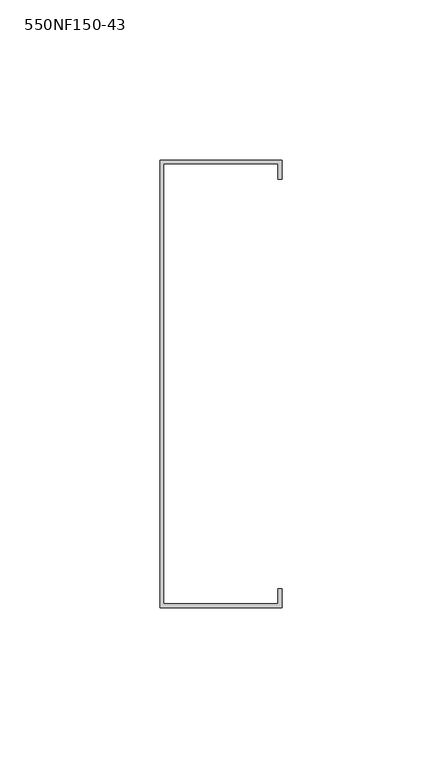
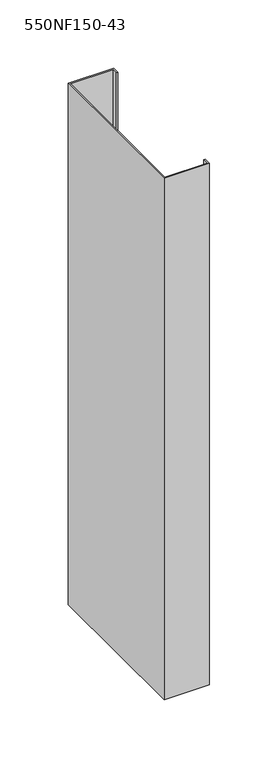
"""IFC4 building model written with IfcOpenShell, lengths in millimetres: column geometry, BIMSF-SSMA-S-Column : 550NF150-43."""

from ifc_helpers import new_model, si_unit, frame, origin, place, context, project, spatial, polyline, outline, extrude, source, transform, mapped, element, save


def column_550nf150_43_228408e8(model_context):
    return source(origin(), model_context, "Body", "SweptSolid", [
        extrude(outline(polyline([(-11.9977877, -80.5871249), (-11.9977877, 59.1128751), (26.1022123, 59.1128751), (26.1022123, 53.1879908), (24.952528, 53.1879908), (24.952528, 57.9631908), (-10.8481035, 57.9631908), (-10.8481035, -79.4374407), (24.952528, -79.4374407), (24.952528, -74.6622407), (26.1022123, -74.6622407), (26.1022123, -80.5871249), (-11.9977877, -80.5871249)])), frame((0.0, 0.0, 5525.3929688), z_axis=(0.0, 0.0, 1.0), x_axis=(1.0, 0.0, 0.0)), (0.0, 0.0, 1.0), 464.7729992),
    ])


if __name__ == "__main__":
    model = new_model("IFC4")
    model_context = context("Model", 3, world=origin())
    ifc_project = project(units=[si_unit("LENGTHUNIT", "METRE", prefix="MILLI")], contexts=[model_context])
    site = spatial("IfcSite", under=ifc_project)
    building = spatial("IfcBuilding", under=site)
    placement = place(None, origin())
    column_550nf150_43_shape = column_550nf150_43_228408e8(model_context)
    element("IfcColumn", 1, ObjectType="BIMSF-SSMA-S-Column : 550NF150-43", at=placement, inside=building, context=model_context, shape_type="MappedRepresentation", body=[
        mapped(column_550nf150_43_shape, transform((0.0, 0.0, 0.0), x_axis=(1.0, 0.0, 0.0), y_axis=(0.0, 1.0, 0.0), z_axis=(0.0, 0.0, 1.0))),
    ])
    save(model, "model.ifc")
